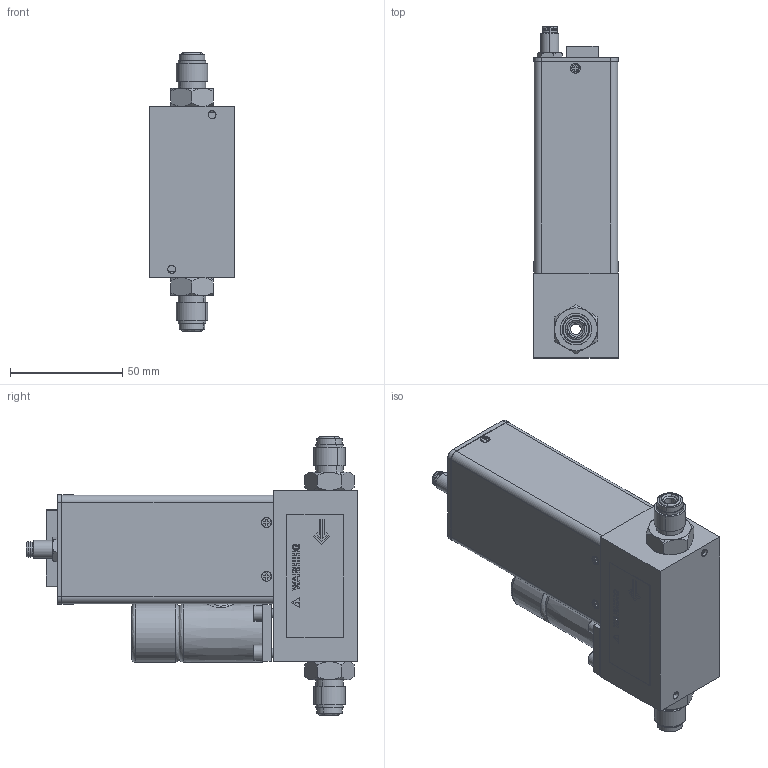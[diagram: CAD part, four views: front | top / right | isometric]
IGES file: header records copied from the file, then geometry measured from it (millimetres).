
Start section: SolidWorks IGES file using analytic representation for surfaces
Global section: file name: G:\Engineering\CAD MODELS FOR SALES\CAD MODEL STORAGE\SLA\SLA5850\IGES\SLA5850-8-E1-5-A-REVB.IGS; native system: SolidWorks 2020; preprocessor: SolidWorks 2020; author: SThen; date: 210630.144630; units: inch
Bounding box: 38.07 x 147.97 x 124.1 mm (x, y, z)
Surface area: 99317.7 mm2 (no closed solid volume)
Topology: 0 solids, 0 shells, 2283 faces, 20840 edges, 20772 vertices
Faces by surface type: bspline 1599, revolution 684
